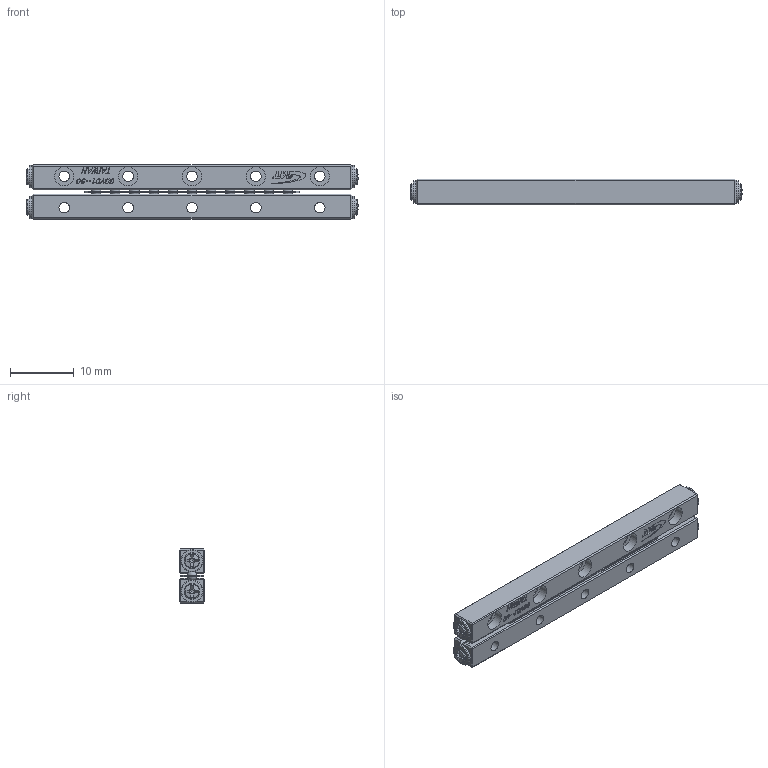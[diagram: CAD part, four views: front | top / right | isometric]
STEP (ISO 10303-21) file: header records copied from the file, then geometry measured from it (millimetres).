
FILE_DESCRIPTION (( 'STEP AP203' ), '1' );
FILE_NAME ('GBV01-50.STEP', '2023-08-04T03:33:32', ( '' ), ( '' ), 'SwSTEP 2.0', 'SolidWorks 2019', '' );
FILE_SCHEMA (( 'CONFIG_CONTROL_DESIGN' ));
Length unit declared in the file: millimetre
Products named in the file (3): GBV01-50; GBV01-50-模糊化保持器組; GBV01-50-模糊化軌道
Assembly tree (3 placements, depth 2):
  GBV01-50
    GBV01-50-模糊化軌道  x2
    GBV01-50-模糊化保持器組
Bounding box: 51.96 x 4 x 8.5 mm (x, y, z)
Volume: 1373.6 mm3; surface area: 2307.2 mm2
Topology: 3 solids, 7 shells, 1116 faces, 2946 edges, 1926 vertices
Faces by surface type: plane 790, bspline 214, cone 40, cylinder 34, sphere 26, torus 12
Full cylindrical faces by diameter (mm): 1.32 x4, 1.65 x10, 2.5 x4, 3 x10, 3.5 x4
Entity records: 19203 total; most frequent: CARTESIAN_POINT 5625, ORIENTED_EDGE 2920, DIRECTION 2288, EDGE_CURVE 1460, LINE 1082, VECTOR 1082, VERTEX_POINT 972, EDGE_LOOP 662
